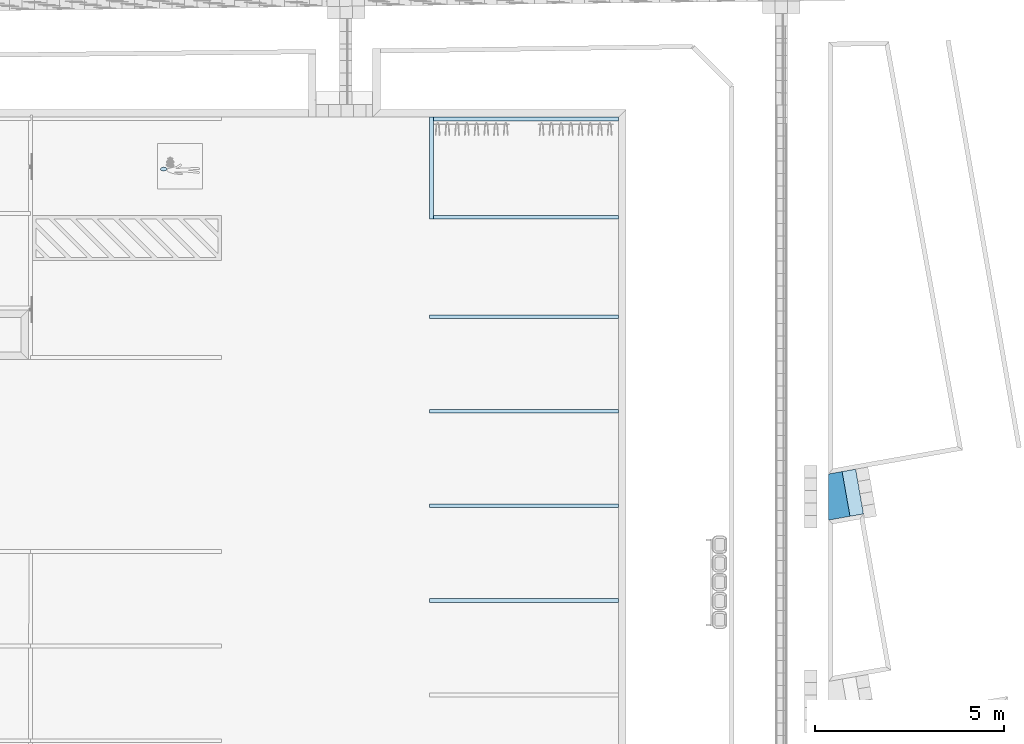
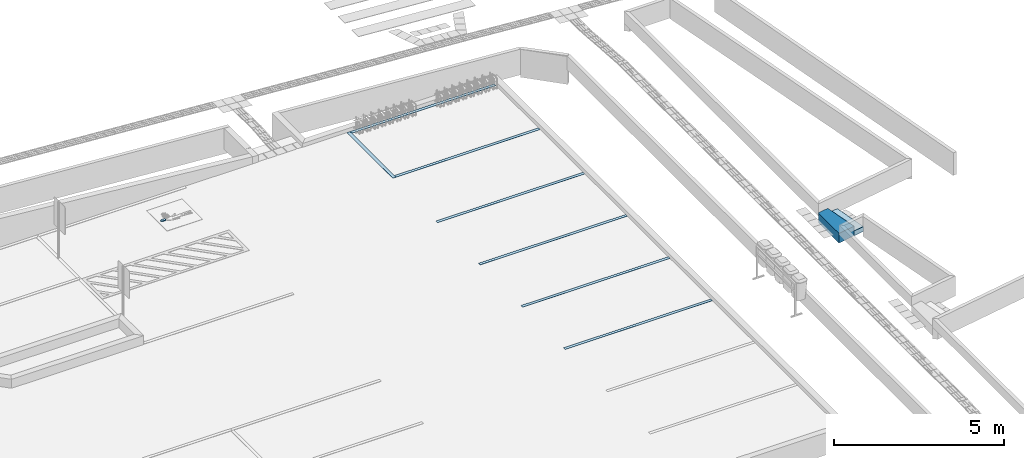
# One storey, part 15 of 237: 10 slabs.
"""IFC2X3 building model written with IfcOpenShell, lengths in millimetres."""

import ifcopenshell
import ifcopenshell.guid

model = None  # the IFC model being written
_history = None  # IfcOwnerHistory: only IFC2X3 demands one
_inside = {}  # id of a spatial element -> (the spatial element, [elements in it])
_under = {}  # id of a project, library or spatial element -> (it, [spatial elements below it])
_declared = {}  # id of a project -> (the project, [libraries it declares])
_typed = {}  # id of a type object -> (the type object, [elements of that type])
_made_of = {}  # id of a material, layer set ... -> (it, [elements and type objects made of it])


def new_model(schema):
    """Start an empty IFC model of exactly this schema.

    Asked for "IFC4X3", IfcOpenShell would pick the latest addendum, in which some entities
    have other attributes; the version numbers below select the first issue.
    IFC2X3 requires an IfcOwnerHistory on every rooted entity: one is made here for all.
    """
    global model, _history
    if schema == "IFC4X3":
        model = ifcopenshell.file(schema_version=(4, 3, 0, 0))
    else:
        model = ifcopenshell.file(schema=schema)
    _inside.clear()
    _under.clear()
    _declared.clear()
    _typed.clear()
    _made_of.clear()
    _history = None
    if model.schema == "IFC2X3":
        org = make("IfcOrganization", Name="unknown")
        user = make(
            "IfcPersonAndOrganization",
            ThePerson=make("IfcPerson", FamilyName="unknown"),
            TheOrganization=org,
        )
        app = make(
            "IfcApplication",
            ApplicationDeveloper=org,
            Version="unknown",
            ApplicationFullName="unknown",
            ApplicationIdentifier="unknown",
        )
        _history = make(
            "IfcOwnerHistory",
            OwningUser=user,
            OwningApplication=app,
            ChangeAction="ADDED",
            CreationDate=0,
        )
    return model


def make(cls, **values):
    """One entity of the class cls with the attributes given. An attribute that is None is left unset."""
    return model.create_entity(
        cls, **{name: value for name, value in values.items() if value is not None}
    )


def entity(cls, *values):
    """Any entity or typed value of the class cls, its attributes in the order of the schema. None: left unset."""
    e = model.create_entity(cls)
    for i, value in enumerate(values):
        if value is not None:
            e[i] = value
    return e


def rooted(cls, **values):
    """An entity with a GlobalId (a new one), such as an element, a storey or a relation."""
    return make(cls, GlobalId=ifcopenshell.guid.new(), OwnerHistory=_history, **values)


def si_unit(unit_type, name, prefix=None):
    """IfcSIUnit, for example si_unit("LENGTHUNIT", "METRE", prefix="MILLI")."""
    return make("IfcSIUnit", UnitType=unit_type, Prefix=prefix, Name=name)


def converted_unit(unit_type, name, factor, base, dimensions=None, offset=None):
    """IfcConversionBasedUnit, such as the inch: factor (a typed value) times the base unit."""
    return make(
        "IfcConversionBasedUnit"
        if offset is None
        else "IfcConversionBasedUnitWithOffset",
        ConversionOffset=offset,
        Dimensions=None
        if dimensions is None
        else entity("IfcDimensionalExponents", *dimensions),
        UnitType=unit_type,
        Name=name,
        ConversionFactor=make(
            "IfcMeasureWithUnit", ValueComponent=factor, UnitComponent=base
        ),
    )


def derived_unit(unit_type, elements):
    """IfcDerivedUnit: a product of units, each with its exponent."""
    return make(
        "IfcDerivedUnit",
        Elements=[
            make("IfcDerivedUnitElement", Unit=unit, Exponent=power)
            for unit, power in elements
        ],
        UnitType=unit_type,
    )


def money_unit(currency):
    """IfcMonetaryUnit."""
    return make("IfcMonetaryUnit", Currency=currency)


def assignment(units):
    """IfcUnitAssignment: the units of a project."""
    return None if units is None else make("IfcUnitAssignment", Units=units)


def point(xyz):
    """IfcCartesianPoint."""
    return None if xyz is None else make("IfcCartesianPoint", Coordinates=xyz)


def direction(xyz):
    """IfcDirection."""
    return None if xyz is None else make("IfcDirection", DirectionRatios=xyz)


def frame(location, z_axis=None, x_axis=None):
    """IfcAxis2Placement3D, a coordinate frame: its origin and axes. An axis left out is left unset."""
    return make(
        "IfcAxis2Placement3D",
        Location=point(location),
        Axis=direction(z_axis),
        RefDirection=direction(x_axis),
    )


def frame_2d(location, x_axis=None):
    """IfcAxis2Placement2D, a coordinate frame in the plane: its origin and x axis."""
    return make(
        "IfcAxis2Placement2D", Location=point(location), RefDirection=direction(x_axis)
    )


def origin_with_axes():
    """The frame at (0, 0, 0) with the z axis (0, 0, 1) and the x axis (1, 0, 0) written out."""
    return frame((0.0, 0.0, 0.0), z_axis=(0.0, 0.0, 1.0), x_axis=(1.0, 0.0, 0.0))


def place(relative_to, where):
    """IfcLocalPlacement: puts the frame where relative to a parent placement (None: the world)."""
    return make(
        "IfcLocalPlacement", PlacementRelTo=relative_to, RelativePlacement=where
    )


def context(
    kind, dimensions, precision=None, world=None, true_north=None, identifier=None
):
    """IfcGeometricRepresentationContext, for example the 3D "Model" context."""
    return make(
        "IfcGeometricRepresentationContext",
        ContextIdentifier=identifier,
        ContextType=kind,
        CoordinateSpaceDimension=dimensions,
        Precision=precision,
        WorldCoordinateSystem=world,
        TrueNorth=true_north,
    )


def subcontext(parent, identifier, kind, view, scale=None):
    """IfcGeometricRepresentationSubContext, for example "Body" below "Model"."""
    return make(
        "IfcGeometricRepresentationSubContext",
        ContextIdentifier=identifier,
        ContextType=kind,
        ParentContext=parent,
        TargetScale=scale,
        TargetView=view,
    )


def project(units=None, contexts=None):
    """IfcProject with its units and contexts."""
    return rooted(
        "IfcProject",
        Name="project",
        RepresentationContexts=contexts,
        UnitsInContext=assignment(units),
    )


def spatial(cls, under=None, at=None, **own):
    """A site, building, storey or space (cls), placed at a placement, below another one or the project."""
    s = rooted(cls, ObjectPlacement=at, **own)
    if under is not None:
        _under.setdefault(under.id(), (under, []))[1].append(s)
    return s


def polyline(points):
    """IfcPolyline through the points."""
    return make("IfcPolyline", Points=[point(p) for p in points])


def circle_curve(where, radius):
    """IfcCircle in the frame where."""
    return make("IfcCircle", Position=where, Radius=radius)


def parameter(value):
    """IfcParameterValue: where a trimmed curve begins or ends, as a parameter of its basis curve."""
    return model.create_entity("IfcParameterValue", value)


def trimmed(basis, trim1, trim2, sense, master):
    """IfcTrimmedCurve: the piece of a basis curve between two trims."""
    return make(
        "IfcTrimmedCurve",
        BasisCurve=basis,
        Trim1=trim1,
        Trim2=trim2,
        SenseAgreement=sense,
        MasterRepresentation=master,
    )


def segment(curve, same_sense, transition):
    """IfcCompositeCurveSegment."""
    return make(
        "IfcCompositeCurveSegment",
        Transition=transition,
        SameSense=same_sense,
        ParentCurve=curve,
    )


def composite_curve(segments, self_intersect=None):
    """IfcCompositeCurve: segments joined end to end."""
    return make("IfcCompositeCurve", Segments=segments, SelfIntersect=self_intersect)


def outline(outer, holes=None, kind="AREA"):
    """IfcArbitraryClosedProfileDef: a profile drawn as a closed curve; with holes, ...WithVoids."""
    if holes is None:
        return make("IfcArbitraryClosedProfileDef", ProfileType=kind, OuterCurve=outer)
    return make(
        "IfcArbitraryProfileDefWithVoids",
        ProfileType=kind,
        OuterCurve=outer,
        InnerCurves=holes,
    )


def extrude(swept, where, along, depth):
    """IfcExtrudedAreaSolid: the profile swept, set in the frame where, extruded along a direction by depth."""
    return make(
        "IfcExtrudedAreaSolid",
        SweptArea=swept,
        Position=where,
        ExtrudedDirection=direction(along),
        Depth=depth,
    )


def shape(context_of_items, identifier, shape_type, items):
    """IfcShapeRepresentation: the items that make up one representation, for example the "Body"."""
    return make(
        "IfcShapeRepresentation",
        ContextOfItems=context_of_items,
        RepresentationIdentifier=identifier,
        RepresentationType=shape_type,
        Items=items,
    )


def material(Name=None, Category=None):
    """IfcMaterial."""
    return make("IfcMaterial", Name=Name, Category=Category)


def layer(
    of_material, thickness, ventilated=None, Name=None, Category=None, Priority=None
):
    """IfcMaterialLayer: one layer of a wall or slab, of a material (None: an air gap)."""
    return make(
        "IfcMaterialLayer",
        Material=of_material,
        LayerThickness=thickness,
        IsVentilated=ventilated,
        Name=Name,
        Category=Category,
        Priority=Priority,
    )


def layer_set(layers, Name=None):
    """IfcMaterialLayerSet."""
    return make("IfcMaterialLayerSet", MaterialLayers=layers, LayerSetName=Name)


def layer_usage(for_layer_set, set_direction, sense, offset, extent=None):
    """IfcMaterialLayerSetUsage: how a layer set lies in its element."""
    return make(
        "IfcMaterialLayerSetUsage",
        ForLayerSet=for_layer_set,
        LayerSetDirection=set_direction,
        DirectionSense=sense,
        OffsetFromReferenceLine=offset,
        ReferenceExtent=extent,
    )


def made_of(thing, what):
    """Note that an element or type object is made of a material, layer set ...; save() writes the relation."""
    if what is not None:
        _made_of.setdefault(what.id(), (what, []))[1].append(thing)
    return thing


def type_object(cls, material=None, **own):
    """A type object (cls), such as IfcWallType, which elements share."""
    return made_of(rooted(cls, **own), material)


def element(
    cls,
    number,
    at=None,
    inside=None,
    cuts=None,
    type_object=None,
    material=None,
    context=None,
    identifier="Body",
    shape_type=None,
    held_by="IfcProductDefinitionShape",
    body=None,
    shapes=None,
    **own,
):
    """One element of the class cls, such as IfcWall. Its Tag is "e" and its number.

    at: its placement. inside: the storey or other place that contains it. cuts: it is an
    opening in that element (IfcRelVoidsElement). A single representation is given by context,
    identifier, shape_type and body (its items); several are given by shapes. held_by: the class
    of the entity that holds the representations. save() writes the other relations.
    """
    e = rooted(cls, Tag="e%d" % number, ObjectPlacement=at, **own)
    if body is not None:
        shapes = [shape(context, identifier, shape_type, body)]
    if shapes is not None:
        e.Representation = make(held_by, Representations=shapes)
    if inside is not None:
        _inside.setdefault(inside.id(), (inside, []))[1].append(e)
    if cuts is not None:
        rooted(
            "IfcRelVoidsElement", RelatingBuildingElement=cuts, RelatedOpeningElement=e
        )
    if type_object is not None:
        _typed.setdefault(type_object.id(), (type_object, []))[1].append(e)
    return made_of(e, material)


def aggregate(whole, parts):
    """IfcRelAggregates: a whole, such as a stair, and the parts it consists of."""
    return rooted("IfcRelAggregates", RelatingObject=whole, RelatedObjects=parts)


def save(model, path):
    """Write the relations noted so far, then the file.

    IfcRelAggregates (storeys below a building ...), IfcRelContainedInSpatialStructure (elements
    in a storey), IfcRelDefinesByType, IfcRelAssociatesMaterial and IfcRelDeclares: one each for
    every whole, place, type object, material and project.
    """
    for whole, parts in _under.values():
        aggregate(whole, parts)
    for where, things in _inside.values():
        rooted(
            "IfcRelContainedInSpatialStructure",
            RelatedElements=things,
            RelatingStructure=where,
        )
    for kind, things in _typed.values():
        rooted("IfcRelDefinesByType", RelatedObjects=things, RelatingType=kind)
    for what, things in _made_of.values():
        rooted("IfcRelAssociatesMaterial", RelatedObjects=things, RelatingMaterial=what)
    for by, libraries in _declared.values():
        rooted("IfcRelDeclares", RelatingContext=by, RelatedDefinitions=libraries)
    model.write(path)


model = new_model("IFC2X3")

# Units and contexts
model_context = context("Model", 3, precision=0.01, world=origin_with_axes(), true_north=direction((0.0, 1.0)))
body_context = subcontext(model_context, "Body", "Model", "MODEL_VIEW")
ifc_project = project(units=[si_unit("LENGTHUNIT", "METRE", prefix="MILLI"), si_unit("AREAUNIT", "SQUARE_METRE"), si_unit("VOLUMEUNIT", "CUBIC_METRE"), converted_unit("PLANEANGLEUNIT", "DEGREE", entity("IfcPlaneAngleMeasure", 0.0174532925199), si_unit("PLANEANGLEUNIT", "RADIAN"), dimensions=[0, 0, 0, 0, 0, 0, 0]), money_unit("USD"), converted_unit("TIMEUNIT", "Year", entity("IfcTimeMeasure", 31556926.0), si_unit("TIMEUNIT", "SECOND"), dimensions=[0, 0, 1, 0, 0, 0, 0]), si_unit("MASSUNIT", "GRAM", prefix="KILO"), si_unit("THERMODYNAMICTEMPERATUREUNIT", "DEGREE_CELSIUS"), si_unit("LUMINOUSINTENSITYUNIT", "LUMEN"), si_unit("ENERGYUNIT", "JOULE", prefix="MEGA"), derived_unit("THERMALCONDUCTANCEUNIT", [(si_unit("POWERUNIT", "WATT"), 1), (si_unit("LENGTHUNIT", "METRE"), -1), (si_unit("THERMODYNAMICTEMPERATUREUNIT", "KELVIN"), -1)]), derived_unit("SPECIFICHEATCAPACITYUNIT", [(si_unit("ENERGYUNIT", "JOULE"), 1), (si_unit("MASSUNIT", "GRAM", prefix="KILO"), -1), (si_unit("THERMODYNAMICTEMPERATUREUNIT", "KELVIN"), -1)]), derived_unit("MASSDENSITYUNIT", [(si_unit("MASSUNIT", "GRAM", prefix="KILO"), 1), (si_unit("VOLUMEUNIT", "CUBIC_METRE"), -1)])], contexts=[model_context])

# Site, building, storey
site_placement = place(None, origin_with_axes())
site = spatial("IfcSite", under=ifc_project, at=site_placement, Name="Local", CompositionType="ELEMENT")
building_placement = place(site_placement, origin_with_axes())
building = spatial("IfcBuilding", under=site, at=building_placement, Name="Construção", CompositionType="ELEMENT")
storey_placement = place(building_placement, origin_with_axes())
storey = spatial("IfcBuildingStorey", under=building, at=storey_placement, Name="Pavimento Térreo", CompositionType="ELEMENT", Elevation=0.0)

# Slabs
ifc_material = material(Name="Concreto")
ifc_layer_1 = layer(ifc_material, 10.0, ventilated="UNKNOWN")
ifc_layer_set_1 = layer_set([ifc_layer_1], Name="Concreto 10")
ifc_layer_usage_1 = layer_usage(ifc_layer_set_1, "AXIS3", "NEGATIVE", 10.0)
slab_type_1 = type_object("IfcSlabType", Name="Concreto 10", PredefinedType="FLOOR")
slab_1_placement = place(storey_placement, frame((131063.866073, 21719.743985, -7269.1909271), z_axis=(0.0, 0.0, 1.0), x_axis=(1.0, 0.0, 0.0)))
element("IfcSlab", 1, at=slab_1_placement, inside=storey, type_object=slab_type_1, material=ifc_layer_usage_1, Name="Laje-023", PredefinedType="FLOOR", context=body_context, shape_type="SweptSolid", body=[
    extrude(outline(polyline([(0.0, 0.0), (-5000.0, 0.0), (-5000.0, -99.999974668), (0.0, -99.999974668), (0.0, 0.0)])), frame((0.0, 0.0, -10.0), z_axis=(0.0, 0.0, 1.0), x_axis=(1.0, 0.0, 0.0)), (0.0, 0.0, 1.0), 10.0),
])
ifc_layer_usage_2 = layer_usage(ifc_layer_set_1, "AXIS3", "NEGATIVE", 10.0)
slab_2_placement = place(storey_placement, frame((131063.866073, 34446.9763334, -7269.1909271), z_axis=(0.0, 0.0, 1.0), x_axis=(1.0, 0.0, 0.0)))
element("IfcSlab", 2, at=slab_2_placement, inside=storey, type_object=slab_type_1, material=ifc_layer_usage_2, Name="Laje-023", PredefinedType="FLOOR", context=body_context, shape_type="SweptSolid", body=[
    extrude(outline(polyline([(0.0, 0.0), (-5000.0, 0.0), (-4998.73470271, -99.999974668), (0.0, -99.999974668), (0.0, 0.0)])), frame((0.0, 0.0, -10.0), z_axis=(0.0, 0.0, 1.0), x_axis=(1.0, 0.0, 0.0)), (0.0, 0.0, 1.0), 10.0),
])
ifc_layer_usage_3 = layer_usage(ifc_layer_set_1, "AXIS3", "NEGATIVE", 10.0)
slab_3_placement = place(storey_placement, frame((131065.13137, 31846.9763587, -7269.1909271), z_axis=(0.0, 0.0, 1.0), x_axis=(1.0, 0.0, 0.0)))
element("IfcSlab", 3, at=slab_3_placement, inside=storey, type_object=slab_type_1, material=ifc_layer_usage_3, Name="Laje-023", PredefinedType="FLOOR", context=body_context, shape_type="SweptSolid", body=[
    extrude(outline(polyline([(0.0, 0.0), (-5000.0, 0.0), (-5000.0, -99.999974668), (0.0, -99.999974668), (0.0, 0.0)])), frame((0.0, 0.0, -10.0), z_axis=(0.0, 0.0, 1.0), x_axis=(1.0, 0.0, 0.0)), (0.0, 0.0, 1.0), 10.0),
])
ifc_layer_usage_4 = layer_usage(ifc_layer_set_1, "AXIS3", "NEGATIVE", 10.0)
slab_4_placement = place(storey_placement, frame((131063.866073, 29219.743985, -7269.1909271), z_axis=(0.0, 0.0, 1.0), x_axis=(1.0, 0.0, 0.0)))
element("IfcSlab", 4, at=slab_4_placement, inside=storey, type_object=slab_type_1, material=ifc_layer_usage_4, Name="Laje-023", PredefinedType="FLOOR", context=body_context, shape_type="SweptSolid", body=[
    extrude(outline(polyline([(0.0, 0.0), (-5000.0, 0.0), (-5000.0, -99.999974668), (0.0, -99.999974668), (0.0, 0.0)])), frame((0.0, 0.0, -10.0), z_axis=(0.0, 0.0, 1.0), x_axis=(1.0, 0.0, 0.0)), (0.0, 0.0, 1.0), 10.0),
])
ifc_layer_usage_5 = layer_usage(ifc_layer_set_1, "AXIS3", "NEGATIVE", 10.0)
slab_5_placement = place(storey_placement, frame((131063.866073, 26719.743985, -7269.1909271), z_axis=(0.0, 0.0, 1.0), x_axis=(1.0, 0.0, 0.0)))
element("IfcSlab", 5, at=slab_5_placement, inside=storey, type_object=slab_type_1, material=ifc_layer_usage_5, Name="Laje-023", PredefinedType="FLOOR", context=body_context, shape_type="SweptSolid", body=[
    extrude(outline(polyline([(0.0, 0.0), (-5000.0, 0.0), (-5000.0, -99.999974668), (0.0, -99.999974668), (0.0, 0.0)])), frame((0.0, 0.0, -10.0), z_axis=(0.0, 0.0, 1.0), x_axis=(1.0, 0.0, 0.0)), (0.0, 0.0, 1.0), 10.0),
])
ifc_layer_usage_6 = layer_usage(ifc_layer_set_1, "AXIS3", "NEGATIVE", 10.0)
slab_6_placement = place(storey_placement, frame((131063.866073, 24219.743985, -7269.1909271), z_axis=(0.0, 0.0, 1.0), x_axis=(1.0, 0.0, 0.0)))
element("IfcSlab", 6, at=slab_6_placement, inside=storey, type_object=slab_type_1, material=ifc_layer_usage_6, Name="Laje-023", PredefinedType="FLOOR", context=body_context, shape_type="SweptSolid", body=[
    extrude(outline(polyline([(0.0, 0.0), (-5000.0, 0.0), (-5000.0, -99.999974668), (0.0, -99.999974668), (0.0, 0.0)])), frame((0.0, 0.0, -10.0), z_axis=(0.0, 0.0, 1.0), x_axis=(1.0, 0.0, 0.0)), (0.0, 0.0, 1.0), 10.0),
])
ifc_layer_usage_7 = layer_usage(ifc_layer_set_1, "AXIS3", "NEGATIVE", 10.0)
slab_7_placement = place(storey_placement, frame((126065.13137, 31746.9763841, -7269.1909271), z_axis=(0.0, 0.0, 1.0), x_axis=(1.0, 0.0, 0.0)))
element("IfcSlab", 7, at=slab_7_placement, inside=storey, type_object=slab_type_1, material=ifc_layer_usage_7, Name="Laje-023", PredefinedType="FLOOR", context=body_context, shape_type="SweptSolid", body=[
    extrude(outline(polyline([(0.0, 0.0), (107.830008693, 0.0), (107.830008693, 2699.99994934), (0.0, 2699.99994934), (0.0, 0.0)])), frame((0.0, 0.0, -10.0), z_axis=(0.0, 0.0, 1.0), x_axis=(1.0, 0.0, 0.0)), (0.0, 0.0, 1.0), 10.0),
])
ifc_layer_usage_8 = layer_usage(ifc_layer_set_1, "AXIS3", "NEGATIVE", 10.0)
slab_8_placement = place(storey_placement, frame((118981.928293, 33109.4383825, -7114.6909271), z_axis=(0.0, 0.0, 1.0), x_axis=(1.0, 0.0, 0.0)))
element("IfcSlab", 8, at=slab_8_placement, inside=storey, type_object=slab_type_1, material=ifc_layer_usage_8, Name="Laje-031", PredefinedType="FLOOR", context=body_context, shape_type="SweptSolid", body=[
    extrude(outline(composite_curve([segment(trimmed(circle_curve(frame_2d((12.8932543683, -37.6677462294), x_axis=(-0.323843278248, 0.946110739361)), 39.8132529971), [point((0.0, 0.0)), parameter(0.0)], [point((0.0, -75.3354924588)), parameter(142.208979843)], True, "CARTESIAN"), True, "CONTINUOUS"), segment(trimmed(circle_curve(frame_2d((55.2306217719, 84.2093664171), x_axis=(-0.327129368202, -0.944979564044)), 168.834189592), [point((0.0, -75.3354924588)), parameter(0.0)], [point((110.461243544, -75.3354924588)), parameter(38.1892642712)], True, "CARTESIAN"), True, "CONTINUOUS"), segment(trimmed(circle_curve(frame_2d((99.6681821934, -37.6677462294), x_axis=(0.275448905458, -0.961315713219)), 39.1835332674), [point((110.461243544, -75.3354924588)), parameter(0.0)], [point((110.461243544, 0.0)), parameter(148.022464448)], True, "CARTESIAN"), True, "CONTINUOUS"), segment(trimmed(circle_curve(frame_2d((55.2306217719, -131.955064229), x_axis=(0.386100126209, 0.922456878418)), 143.047406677), [point((110.461243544, 0.0)), parameter(0.0)], [point((0.0, 0.0)), parameter(45.4241088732)], True, "CARTESIAN"), True, "CONTINUOUS")], self_intersect=False)), frame((0.0, 0.0, -10.0), z_axis=(0.0, 0.0, 1.0), x_axis=(1.0, 0.0, 0.0)), (0.0, 0.0, 1.0), 10.0),
])
ifc_layer_2 = layer(ifc_material, 345.9279934, ventilated="UNKNOWN")
ifc_layer_set_2 = layer_set([ifc_layer_2], Name="Concreto 345.928")
ifc_layer_usage_9 = layer_usage(ifc_layer_set_2, "AXIS3", "NEGATIVE", 345.9279934)
slab_type_2 = type_object("IfcSlabType", Name="Concreto 346", PredefinedType="FLOOR")
slab_9_placement = place(storey_placement, frame((136611.190213, 23792.1579958, -8117.8029365), z_axis=(0.0, 0.0, 1.0), x_axis=(1.0, 0.0, 0.0)))
element("IfcSlab", 9, at=slab_9_placement, inside=storey, type_object=slab_type_2, material=ifc_layer_usage_9, Name="Laje-037", PredefinedType="FLOOR", context=body_context, shape_type="SweptSolid", body=[
    extrude(outline(polyline([(0.0, 0.0), (568.565492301, 101.695346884), (359.176164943, 1282.41975105), (-0.216249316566, 1218.68520333), (0.0, 0.0)])), frame((0.0, 0.0, -345.9279934), z_axis=(0.0, 0.0, 1.0), x_axis=(1.0, 0.0, 0.0)), (0.0, 0.0, 1.0), 345.9279934),
])
ifc_layer_3 = layer(ifc_material, 172.6279934, ventilated="UNKNOWN")
ifc_layer_set_3 = layer_set([ifc_layer_3], Name="Concreto 172.628")
ifc_layer_usage_10 = layer_usage(ifc_layer_set_3, "AXIS3", "NEGATIVE", 172.6279934)
slab_type_3 = type_object("IfcSlabType", Name="Concreto 173", PredefinedType="FLOOR")
slab_10_placement = place(storey_placement, frame((137179.755706, 23893.8533427, -8291.1029365), z_axis=(0.0, 0.0, 1.0), x_axis=(1.0, 0.0, 0.0)))
element("IfcSlab", 10, at=slab_10_placement, inside=storey, type_object=slab_type_3, material=ifc_layer_usage_10, Name="Laje-037", PredefinedType="FLOOR", context=body_context, shape_type="SweptSolid", body=[
    extrude(outline(polyline([(0.0, 0.0), (355.116351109, 62.1116676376), (149.27097463, 1244.40072479), (-209.389327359, 1180.72440417), (0.0, 0.0)])), frame((0.0, 0.0, -172.6279934), z_axis=(0.0, 0.0, 1.0), x_axis=(1.0, 0.0, 0.0)), (0.0, 0.0, 1.0), 172.6279934),
])

save(model, "model.ifc")
